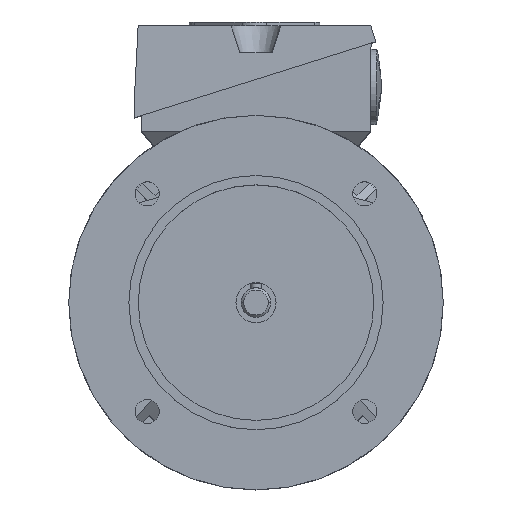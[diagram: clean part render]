
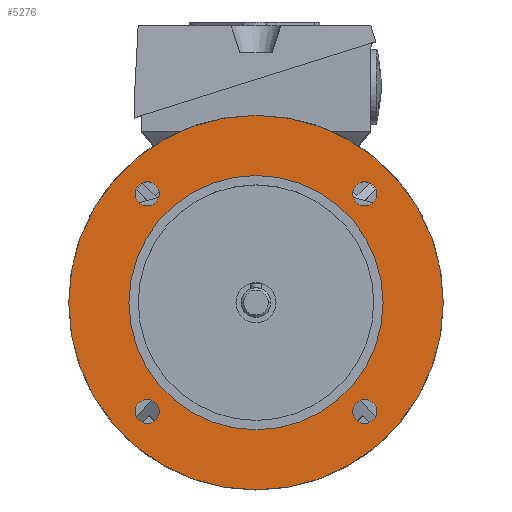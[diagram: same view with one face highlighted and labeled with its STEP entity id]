
A CAD part, top view. The second image highlights one B-rep face of the part: STEP entity #5276.
In plain terms, the highlighted planar face has unit normal (0, 0, 1).
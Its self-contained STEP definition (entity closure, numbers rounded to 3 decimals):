
#232 = CIRCLE ( 'NONE', #4450, 4.5 ) ;
#376 = VERTEX_POINT ( 'NONE', #4889 ) ;
#417 = CIRCLE ( 'NONE', #2445, 47.5 ) ;
#449 = FACE_BOUND ( 'NONE', #1607, .T. ) ;
#577 = DIRECTION ( 'NONE',  ( 1., 0., 0. ) ) ;
#651 = FACE_BOUND ( 'NONE', #9528, .T. ) ;
#693 = EDGE_CURVE ( 'NONE', #376, #13732, #7099, .T. ) ;
#785 = ORIENTED_EDGE ( 'NONE', *, *, #2594, .F. ) ;
#800 = DIRECTION ( 'NONE',  ( 0., 0., 1. ) ) ;
#1035 = VERTEX_POINT ( 'NONE', #13373 ) ;
#1142 = VERTEX_POINT ( 'NONE', #13276 ) ;
#1172 = CARTESIAN_POINT ( 'NONE',  ( -45.159, -40.659, 11. ) ) ;
#1248 = CARTESIAN_POINT ( 'NONE',  ( 36.159, 40.659, 11. ) ) ;
#1381 = DIRECTION ( 'NONE',  ( 0., 0., 1. ) ) ;
#1390 = VERTEX_POINT ( 'NONE', #13621 ) ;
#1607 = EDGE_LOOP ( 'NONE', ( #2600, #3292 ) ) ;
#1991 = PLANE ( 'NONE',  #12888 ) ;
#2038 = CARTESIAN_POINT ( 'NONE',  ( 40.659, -40.659, 11. ) ) ;
#2368 = CIRCLE ( 'NONE', #5668, 70. ) ;
#2378 = CARTESIAN_POINT ( 'NONE',  ( -40.659, -40.659, 11. ) ) ;
#2445 = AXIS2_PLACEMENT_3D ( 'NONE', #11456, #4355, #11353 ) ;
#2526 = DIRECTION ( 'NONE',  ( 1., 0., 0. ) ) ;
#2594 = EDGE_CURVE ( 'NONE', #1142, #1035, #3389, .T. ) ;
#2600 = ORIENTED_EDGE ( 'NONE', *, *, #14073, .F. ) ;
#2692 = DIRECTION ( 'NONE',  ( 0., -1., 0. ) ) ;
#2902 = DIRECTION ( 'NONE',  ( 0., 0., 1. ) ) ;
#3017 = ORIENTED_EDGE ( 'NONE', *, *, #14802, .F. ) ;
#3130 = DIRECTION ( 'NONE',  ( 1., 0., 0. ) ) ;
#3189 = FACE_BOUND ( 'NONE', #4549, .T. ) ;
#3225 = CARTESIAN_POINT ( 'NONE',  ( -40.659, 40.659, 11. ) ) ;
#3247 = DIRECTION ( 'NONE',  ( 0., 0., 1. ) ) ;
#3292 = ORIENTED_EDGE ( 'NONE', *, *, #7340, .F. ) ;
#3389 = CIRCLE ( 'NONE', #8037, 47.5 ) ;
#3502 = DIRECTION ( 'NONE',  ( 0., 0., 1. ) ) ;
#4087 = VERTEX_POINT ( 'NONE', #6697 ) ;
#4263 = CARTESIAN_POINT ( 'NONE',  ( 40.659, -40.659, 11. ) ) ;
#4355 = DIRECTION ( 'NONE',  ( 0., 0., 1. ) ) ;
#4450 = AXIS2_PLACEMENT_3D ( 'NONE', #4263, #12542, #10091 ) ;
#4549 = EDGE_LOOP ( 'NONE', ( #4887, #11256 ) ) ;
#4887 = ORIENTED_EDGE ( 'NONE', *, *, #7883, .F. ) ;
#4889 = CARTESIAN_POINT ( 'NONE',  ( -36.159, -40.659, 11. ) ) ;
#5127 = VERTEX_POINT ( 'NONE', #13756 ) ;
#5240 = CIRCLE ( 'NONE', #9799, 4.5 ) ;
#5276 = ADVANCED_FACE ( 'NONE', ( #449, #3189, #651, #10842, #6883, #9710 ), #1991, .F. ) ;
#5437 = DIRECTION ( 'NONE',  ( 1., 0., 0. ) ) ;
#5523 = ORIENTED_EDGE ( 'NONE', *, *, #693, .F. ) ;
#5553 = VERTEX_POINT ( 'NONE', #7819 ) ;
#5668 = AXIS2_PLACEMENT_3D ( 'NONE', #13939, #6796, #5437 ) ;
#6411 = VERTEX_POINT ( 'NONE', #11432 ) ;
#6469 = ORIENTED_EDGE ( 'NONE', *, *, #7708, .F. ) ;
#6697 = CARTESIAN_POINT ( 'NONE',  ( -36.159, 40.659, 11. ) ) ;
#6796 = DIRECTION ( 'NONE',  ( 0., 0., 1. ) ) ;
#6883 = FACE_BOUND ( 'NONE', #8147, .T. ) ;
#6930 = CARTESIAN_POINT ( 'NONE',  ( 45.159, -40.659, 11. ) ) ;
#7056 = AXIS2_PLACEMENT_3D ( 'NONE', #3225, #800, #9172 ) ;
#7068 = AXIS2_PLACEMENT_3D ( 'NONE', #2378, #3502, #2526 ) ;
#7099 = CIRCLE ( 'NONE', #7068, 4.5 ) ;
#7246 = EDGE_CURVE ( 'NONE', #1035, #1142, #417, .T. ) ;
#7340 = EDGE_CURVE ( 'NONE', #5127, #13302, #232, .T. ) ;
#7708 = EDGE_CURVE ( 'NONE', #12696, #4087, #15017, .T. ) ;
#7819 = CARTESIAN_POINT ( 'NONE',  ( 70., 0., 11. ) ) ;
#7844 = CARTESIAN_POINT ( 'NONE',  ( 40.659, 40.659, 11. ) ) ;
#7883 = EDGE_CURVE ( 'NONE', #1390, #8172, #14997, .T. ) ;
#8037 = AXIS2_PLACEMENT_3D ( 'NONE', #12318, #11211, #577 ) ;
#8063 = CARTESIAN_POINT ( 'NONE',  ( -45.159, 40.659, 11. ) ) ;
#8147 = EDGE_LOOP ( 'NONE', ( #785, #11361 ) ) ;
#8172 = VERTEX_POINT ( 'NONE', #1248 ) ;
#8656 = DIRECTION ( 'NONE',  ( -1., 0., 0. ) ) ;
#8964 = CARTESIAN_POINT ( 'NONE',  ( -40.659, -40.659, 11. ) ) ;
#9016 = DIRECTION ( 'NONE',  ( 0., 0., 1. ) ) ;
#9172 = DIRECTION ( 'NONE',  ( 0., -1., 0. ) ) ;
#9261 = EDGE_LOOP ( 'NONE', ( #12462, #12490 ) ) ;
#9272 = DIRECTION ( 'NONE',  ( -1., 0., 0. ) ) ;
#9419 = CIRCLE ( 'NONE', #7056, 4.5 ) ;
#9444 = CIRCLE ( 'NONE', #10997, 4.5 ) ;
#9528 = EDGE_LOOP ( 'NONE', ( #3017, #6469 ) ) ;
#9710 = FACE_OUTER_BOUND ( 'NONE', #9261, .T. ) ;
#9799 = AXIS2_PLACEMENT_3D ( 'NONE', #8964, #9016, #3130 ) ;
#9816 = CARTESIAN_POINT ( 'NONE',  ( -40.659, 40.659, 11. ) ) ;
#9922 = DIRECTION ( 'NONE',  ( 0., 0., 1. ) ) ;
#9968 = CARTESIAN_POINT ( 'NONE',  ( 40.659, 40.659, 11. ) ) ;
#10007 = EDGE_CURVE ( 'NONE', #13732, #376, #5240, .T. ) ;
#10044 = AXIS2_PLACEMENT_3D ( 'NONE', #9816, #1381, #2692 ) ;
#10091 = DIRECTION ( 'NONE',  ( 0., 1., 0. ) ) ;
#10134 = CARTESIAN_POINT ( 'NONE',  ( 0., 0., 11. ) ) ;
#10240 = DIRECTION ( 'NONE',  ( 0., 1., 0. ) ) ;
#10344 = DIRECTION ( 'NONE',  ( 0., 0., -1. ) ) ;
#10746 = AXIS2_PLACEMENT_3D ( 'NONE', #9968, #2902, #8656 ) ;
#10842 = FACE_BOUND ( 'NONE', #11294, .T. ) ;
#10997 = AXIS2_PLACEMENT_3D ( 'NONE', #2038, #3247, #10240 ) ;
#11211 = DIRECTION ( 'NONE',  ( 0., 0., 1. ) ) ;
#11256 = ORIENTED_EDGE ( 'NONE', *, *, #14771, .F. ) ;
#11294 = EDGE_LOOP ( 'NONE', ( #5523, #15083 ) ) ;
#11353 = DIRECTION ( 'NONE',  ( 1., 0., 0. ) ) ;
#11361 = ORIENTED_EDGE ( 'NONE', *, *, #7246, .F. ) ;
#11432 = CARTESIAN_POINT ( 'NONE',  ( -70., 0., 11. ) ) ;
#11456 = CARTESIAN_POINT ( 'NONE',  ( 0., 0., 11. ) ) ;
#11558 = DIRECTION ( 'NONE',  ( -1., 0., 0. ) ) ;
#11706 = AXIS2_PLACEMENT_3D ( 'NONE', #7844, #12862, #9272 ) ;
#11975 = AXIS2_PLACEMENT_3D ( 'NONE', #10134, #9922, #13555 ) ;
#12318 = CARTESIAN_POINT ( 'NONE',  ( 0., 0., 11. ) ) ;
#12462 = ORIENTED_EDGE ( 'NONE', *, *, #14058, .T. ) ;
#12490 = ORIENTED_EDGE ( 'NONE', *, *, #13997, .T. ) ;
#12542 = DIRECTION ( 'NONE',  ( 0., 0., 1. ) ) ;
#12601 = CIRCLE ( 'NONE', #11706, 4.5 ) ;
#12696 = VERTEX_POINT ( 'NONE', #8063 ) ;
#12862 = DIRECTION ( 'NONE',  ( 0., 0., 1. ) ) ;
#12888 = AXIS2_PLACEMENT_3D ( 'NONE', #13898, #10344, #11558 ) ;
#13276 = CARTESIAN_POINT ( 'NONE',  ( 47.5, 0., 11. ) ) ;
#13302 = VERTEX_POINT ( 'NONE', #6930 ) ;
#13373 = CARTESIAN_POINT ( 'NONE',  ( -47.5, 0., 11. ) ) ;
#13555 = DIRECTION ( 'NONE',  ( 1., 0., 0. ) ) ;
#13621 = CARTESIAN_POINT ( 'NONE',  ( 45.159, 40.659, 11. ) ) ;
#13732 = VERTEX_POINT ( 'NONE', #1172 ) ;
#13756 = CARTESIAN_POINT ( 'NONE',  ( 36.159, -40.659, 11. ) ) ;
#13898 = CARTESIAN_POINT ( 'NONE',  ( 0., 47.5, 11. ) ) ;
#13939 = CARTESIAN_POINT ( 'NONE',  ( 0., 0., 11. ) ) ;
#13997 = EDGE_CURVE ( 'NONE', #6411, #5553, #15168, .T. ) ;
#14058 = EDGE_CURVE ( 'NONE', #5553, #6411, #2368, .T. ) ;
#14073 = EDGE_CURVE ( 'NONE', #13302, #5127, #9444, .T. ) ;
#14771 = EDGE_CURVE ( 'NONE', #8172, #1390, #12601, .T. ) ;
#14802 = EDGE_CURVE ( 'NONE', #4087, #12696, #9419, .T. ) ;
#14997 = CIRCLE ( 'NONE', #10746, 4.5 ) ;
#15017 = CIRCLE ( 'NONE', #10044, 4.5 ) ;
#15083 = ORIENTED_EDGE ( 'NONE', *, *, #10007, .F. ) ;
#15168 = CIRCLE ( 'NONE', #11975, 70. ) ;
